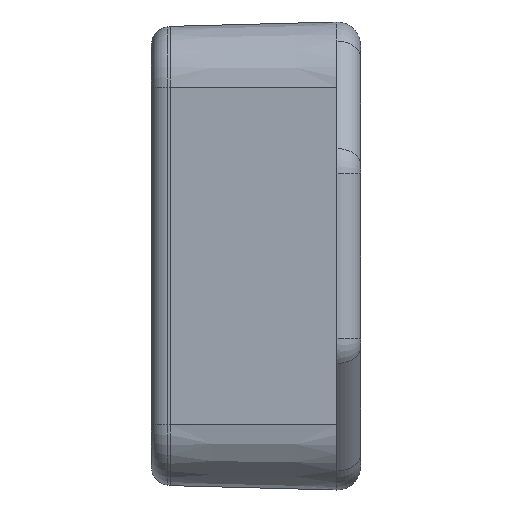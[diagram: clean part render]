
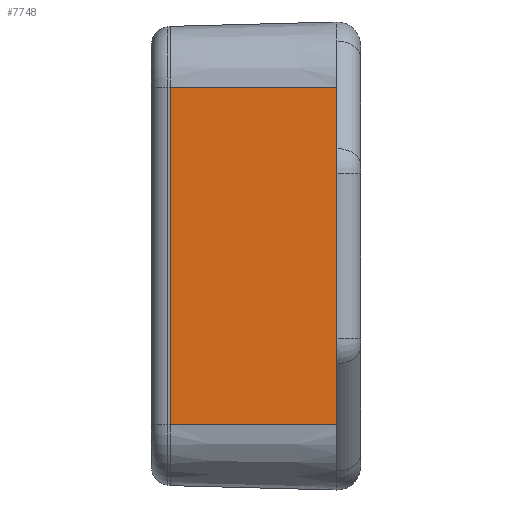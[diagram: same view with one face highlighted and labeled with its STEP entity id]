
A CAD part, left-side view. The second image highlights one B-rep face of the part: STEP entity #7748.
In plain terms, the highlighted planar face has unit normal (-1, 0.026, 0).
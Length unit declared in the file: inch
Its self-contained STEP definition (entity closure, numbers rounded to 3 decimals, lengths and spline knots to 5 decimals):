
#1167 = DIRECTION ( 'NONE',  ( 0., 0., 1. ) ) ;
#1235 = LINE ( 'NONE', #4019, #11774 ) ;
#1722 = VECTOR ( 'NONE', #1955, 39.37008 ) ;
#1955 = DIRECTION ( 'NONE',  ( 0., 0., -1. ) ) ;
#2336 = CARTESIAN_POINT ( 'NONE',  ( -1.64704, 0., 0.8876 ) ) ;
#2395 = CARTESIAN_POINT ( 'NONE',  ( -1.66998, -0.876, -0.8876 ) ) ;
#2862 = CARTESIAN_POINT ( 'NONE',  ( -1.64704, 0., 0.8876 ) ) ;
#3312 = EDGE_CURVE ( 'NONE', #10072, #12672, #1235, .T. ) ;
#3556 = VECTOR ( 'NONE', #8271, 39.37008 ) ;
#3929 = VERTEX_POINT ( 'NONE', #2395 ) ;
#3945 = EDGE_CURVE ( 'NONE', #5484, #12672, #7401, .T. ) ;
#4019 = CARTESIAN_POINT ( 'NONE',  ( -1.64704, 0., -0.8876 ) ) ;
#4249 = FACE_OUTER_BOUND ( 'NONE', #10155, .T. ) ;
#4767 = CARTESIAN_POINT ( 'NONE',  ( -1.64704, 0., -0.8876 ) ) ;
#4975 = ORIENTED_EDGE ( 'NONE', *, *, #7694, .F. ) ;
#4979 = LINE ( 'NONE', #13069, #1722 ) ;
#5457 = ORIENTED_EDGE ( 'NONE', *, *, #12496, .F. ) ;
#5484 = VERTEX_POINT ( 'NONE', #5785 ) ;
#5785 = CARTESIAN_POINT ( 'NONE',  ( -1.66998, -0.876, 0.8876 ) ) ;
#6751 = LINE ( 'NONE', #4767, #11583 ) ;
#7347 = DIRECTION ( 'NONE',  ( -1., 0.026, 0. ) ) ;
#7401 = LINE ( 'NONE', #2336, #3556 ) ;
#7694 = EDGE_CURVE ( 'NONE', #5484, #3929, #4979, .T. ) ;
#7727 = ORIENTED_EDGE ( 'NONE', *, *, #3312, .F. ) ;
#7748 = ADVANCED_FACE ( 'NONE', ( #4249 ), #9482, .T. ) ;
#8218 = DIRECTION ( 'NONE',  ( -0.026, -1., 0. ) ) ;
#8271 = DIRECTION ( 'NONE',  ( 0.026, 1., 0. ) ) ;
#8619 = DIRECTION ( 'NONE',  ( 0.026, 1., 0. ) ) ;
#8713 = CARTESIAN_POINT ( 'NONE',  ( -1.64704, 0., -0.8876 ) ) ;
#9482 = PLANE ( 'NONE',  #10174 ) ;
#10072 = VERTEX_POINT ( 'NONE', #8713 ) ;
#10155 = EDGE_LOOP ( 'NONE', ( #4975, #12308, #7727, #5457 ) ) ;
#10174 = AXIS2_PLACEMENT_3D ( 'NONE', #11466, #7347, #8218 ) ;
#11466 = CARTESIAN_POINT ( 'NONE',  ( -1.64704, 0., -0.8876 ) ) ;
#11583 = VECTOR ( 'NONE', #8619, 39.37008 ) ;
#11774 = VECTOR ( 'NONE', #1167, 39.37008 ) ;
#12308 = ORIENTED_EDGE ( 'NONE', *, *, #3945, .T. ) ;
#12496 = EDGE_CURVE ( 'NONE', #3929, #10072, #6751, .T. ) ;
#12672 = VERTEX_POINT ( 'NONE', #2862 ) ;
#13069 = CARTESIAN_POINT ( 'NONE',  ( -1.66998, -0.876, -0.8876 ) ) ;
